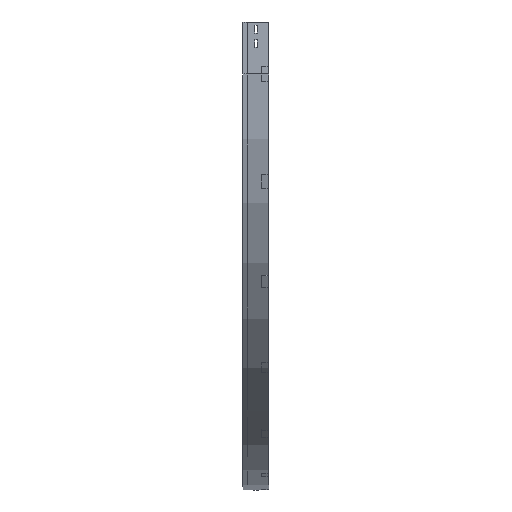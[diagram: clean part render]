
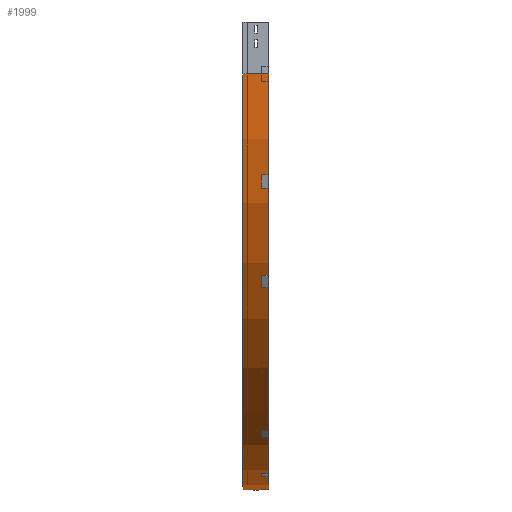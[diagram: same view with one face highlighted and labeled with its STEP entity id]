
A CAD part, left-side view. The second image highlights one B-rep face of the part: STEP entity #1999.
In plain terms, the highlighted cylindrical face has radius 1200 mm (diameter 2400 mm), a partial arc.
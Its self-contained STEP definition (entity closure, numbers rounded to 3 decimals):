
#5 = EDGE_CURVE ( 'NONE', #405, #2280, #50, .T. ) ;
#23 = ORIENTED_EDGE ( 'NONE', *, *, #1307, .F. ) ;
#37 = DIRECTION ( 'NONE',  ( -1., 0., 0. ) ) ;
#50 = LINE ( 'NONE', #2441, #2162 ) ;
#77 = CARTESIAN_POINT ( 'NONE',  ( 1200., 75., -1350. ) ) ;
#133 = DIRECTION ( 'NONE',  ( 0., -1., 0. ) ) ;
#181 = VERTEX_POINT ( 'NONE', #1175 ) ;
#405 = VERTEX_POINT ( 'NONE', #77 ) ;
#426 = DIRECTION ( 'NONE',  ( 0., -1., 0. ) ) ;
#580 = CARTESIAN_POINT ( 'NONE',  ( 1200., 75., -150. ) ) ;
#977 = ORIENTED_EDGE ( 'NONE', *, *, #5, .T. ) ;
#1004 = VECTOR ( 'NONE', #426, 1000. ) ;
#1175 = CARTESIAN_POINT ( 'NONE',  ( 0., 0., -150. ) ) ;
#1307 = EDGE_CURVE ( 'NONE', #2243, #181, #1613, .T. ) ;
#1613 = LINE ( 'NONE', #2846, #1004 ) ;
#1681 = ORIENTED_EDGE ( 'NONE', *, *, #2284, .F. ) ;
#1748 = AXIS2_PLACEMENT_3D ( 'NONE', #580, #2975, #37 ) ;
#1963 = AXIS2_PLACEMENT_3D ( 'NONE', #3616, #2127, #3023 ) ;
#1975 = DIRECTION ( 'NONE',  ( -1., 0., 0. ) ) ;
#1999 = ADVANCED_FACE ( 'NONE', ( #3109 ), #2423, .T. ) ;
#2127 = DIRECTION ( 'NONE',  ( 0., -1., 0. ) ) ;
#2162 = VECTOR ( 'NONE', #3637, 1000. ) ;
#2243 = VERTEX_POINT ( 'NONE', #3423 ) ;
#2274 = AXIS2_PLACEMENT_3D ( 'NONE', #2498, #133, #1975 ) ;
#2280 = VERTEX_POINT ( 'NONE', #2558 ) ;
#2284 = EDGE_CURVE ( 'NONE', #181, #2280, #2825, .T. ) ;
#2423 = CYLINDRICAL_SURFACE ( 'NONE', #1963, 1200. ) ;
#2441 = CARTESIAN_POINT ( 'NONE',  ( 1200., 0., -1350. ) ) ;
#2451 = CIRCLE ( 'NONE', #1748, 1200. ) ;
#2498 = CARTESIAN_POINT ( 'NONE',  ( 1200., 0., -150. ) ) ;
#2558 = CARTESIAN_POINT ( 'NONE',  ( 1200., 0., -1350. ) ) ;
#2772 = ORIENTED_EDGE ( 'NONE', *, *, #3409, .T. ) ;
#2825 = CIRCLE ( 'NONE', #2274, 1200. ) ;
#2846 = CARTESIAN_POINT ( 'NONE',  ( 0., 0., -150. ) ) ;
#2975 = DIRECTION ( 'NONE',  ( 0., -1., 0. ) ) ;
#3017 = EDGE_LOOP ( 'NONE', ( #1681, #23, #2772, #977 ) ) ;
#3023 = DIRECTION ( 'NONE',  ( 0., 0., -1. ) ) ;
#3109 = FACE_OUTER_BOUND ( 'NONE', #3017, .T. ) ;
#3409 = EDGE_CURVE ( 'NONE', #2243, #405, #2451, .T. ) ;
#3423 = CARTESIAN_POINT ( 'NONE',  ( 0., 75., -150. ) ) ;
#3616 = CARTESIAN_POINT ( 'NONE',  ( 1200., 0., -150. ) ) ;
#3637 = DIRECTION ( 'NONE',  ( 0., -1., 0. ) ) ;
